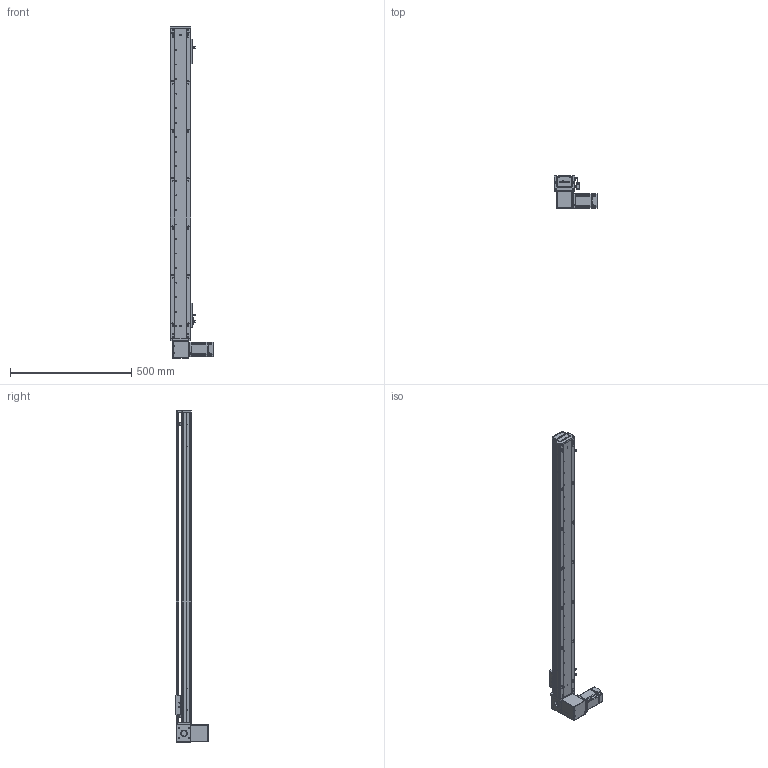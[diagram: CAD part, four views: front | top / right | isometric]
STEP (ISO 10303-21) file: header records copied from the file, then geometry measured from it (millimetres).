
FILE_DESCRIPTION (( 'STEP AP203' ), '1' );
FILE_NAME ('RY80-T-300-DR.SLDASM_1100.step', '2021-03-01T01:50:17', ( '盈信电脑' ), ( '东莞市道滘镇水果街19号' ), 'SwSTEP 2.0', 'SolidWorks 2012', '' );
FILE_SCHEMA (( 'CONFIG_CONTROL_DESIGN' ));
Length unit declared in the file: millimetre
Products named in the file (18): RY80-T-300-DR.SLDASM_1100; RY80-T肮祭謫狟殏俋欶; 1; RY80-T萇儂假蚾啣; RY80-T-M4蹟翐3; RY80-T翋肮祭謫裔啣; 滅袉蝶18-10; RY80-T-上下折同步轮盖板; RY80俋离覜茼え; RY80-T肮祭湍揤輸1; RY80-T-翋肮祭謫釱; RY80-T肮祭湍揤輸2; 672嫖萇羲壽假蚾釱; RY80-T綴裔啣; 覜茼ん672; RY80-T-300-DR倰第菁釱_1100; RY80-T肮祭謫臏賑輸; RY80-T-300-DR倰第奻裔啣_1100
Assembly tree (21 placements, depth 2):
  RY80-T-300-DR.SLDASM_1100
    RY80-T-300-DR倰第菁釱_1100
    RY80-T肮祭謫臏賑輸
    RY80-T-300-DR倰第奻裔啣_1100
    RY80-T綴裔啣
    672嫖萇羲壽假蚾釱  x2
    覜茼ん672  x3
    RY80俋离覜茼え
    RY80-T-翋肮祭謫釱
    RY80-T肮祭湍揤輸1
    RY80-T肮祭湍揤輸2
    滅袉蝶18-10  x2
    RY80-T翋肮祭謫裔啣
    RY80-T-上下折同步轮盖板
    RY80-T肮祭謫狟殏俋欶
    RY80-T萇儂假蚾啣
    1
    RY80-T-M4蹟翐3
Bounding box: 180 x 134.5 x 1370 mm (x, y, z)
Volume: 2295612.5 mm3; surface area: 961106.5 mm2
Topology: 21 solids, 21 shells, 2425 faces, 6707 edges, 4356 vertices
Faces by surface type: plane 1309, cylinder 920, cone 140, bspline 56
Entity records: 77246 total; most frequent: CARTESIAN_POINT 18704, ORIENTED_EDGE 12058, DIRECTION 11322, EDGE_CURVE 6029, VERTEX_POINT 3960, AXIS2_PLACEMENT_3D 3798, LINE 3726, VECTOR 3726
